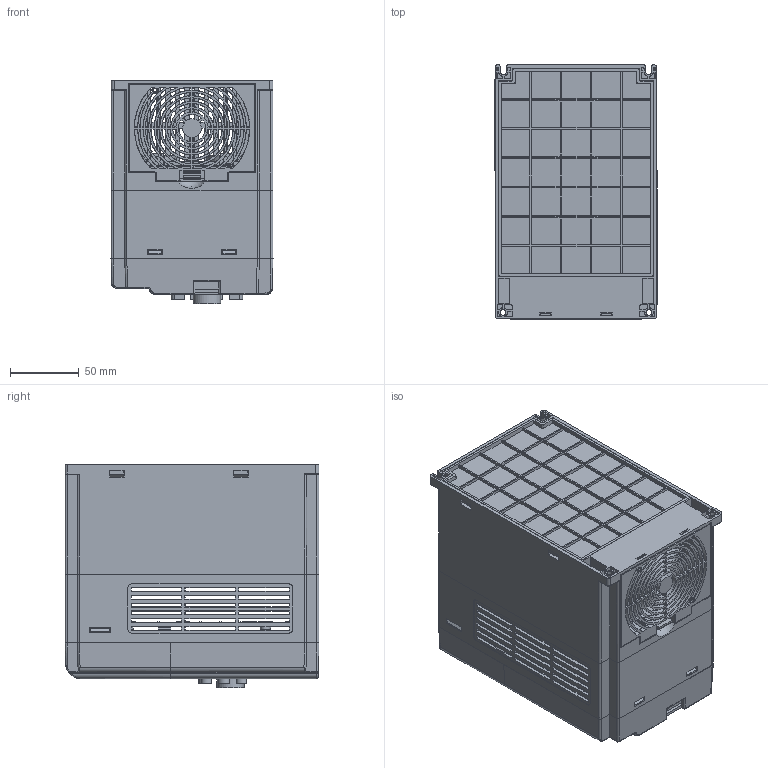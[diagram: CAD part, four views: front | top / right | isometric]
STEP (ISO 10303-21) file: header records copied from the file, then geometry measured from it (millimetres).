
FILE_DESCRIPTION(('STEP AP203'), '1');
FILE_NAME('Ïðåîáðàçîâàòåëü ÷àñòîòû _ LCI-G0.4-2B', '2024-10-31T06:07:18', ('admin'), (''), 'C3D Converter', 'C3D Toolkit', '');
FILE_SCHEMA(('CONFIG_CONTROL_DESIGN'));
Length unit declared in the file: millimetre
Products named in the file (14):  LCI-G1.5-3;  LCI-G1.5; СБДINS LCI-KP-B; Панель управления; Панель управленния
Assembly tree (13 placements, depth 3):
   LCI-G1.5-3
     LCI-G1.5
     LCI-G1.5
     LCI-G1.5
     LCI-G1.5
     LCI-G1.5
     LCI-G1.5
     LCI-G1.5
    СБДINS LCI-KP-B
      Панель управления
      Панель управленния
      Панель управления
      Панель управления
      Панель управленния
Bounding box: 117.97 x 184.89 x 162.66 mm (x, y, z)
Volume: 453236.2 mm3; surface area: 457901.5 mm2
Topology: 14 solids, 14 shells, 3944 faces, 10641 edges, 6966 vertices
Faces by surface type: plane 3156, cylinder 532, cone 134, bspline 72, sphere 24, extrusion 14, torus 10, revolution 2
Full cylindrical faces by diameter (mm): 1.2 x32, 2 x2, 2.4 x4, 2.5 x2, 2.6 x8, 3 x16, 3.4 x8, 3.5 x5, 3.9 x2, 4 x2, 4.2 x2, 4.5 x2, 6 x12, 6.2 x1, 7 x5, 7.8 x5, 8 x2, 8.1 x2, 9.9 x1, 10 x7, 20 x2
Entity records: 145994 total; most frequent: CARTESIAN_POINT 38696, ORIENTED_EDGE 20916, DIRECTION 18310, EDGE_CURVE 10458, VECTOR 8538, LINE 8524, VERTEX_POINT 6959, AXIS2_PLACEMENT_3D 4885
